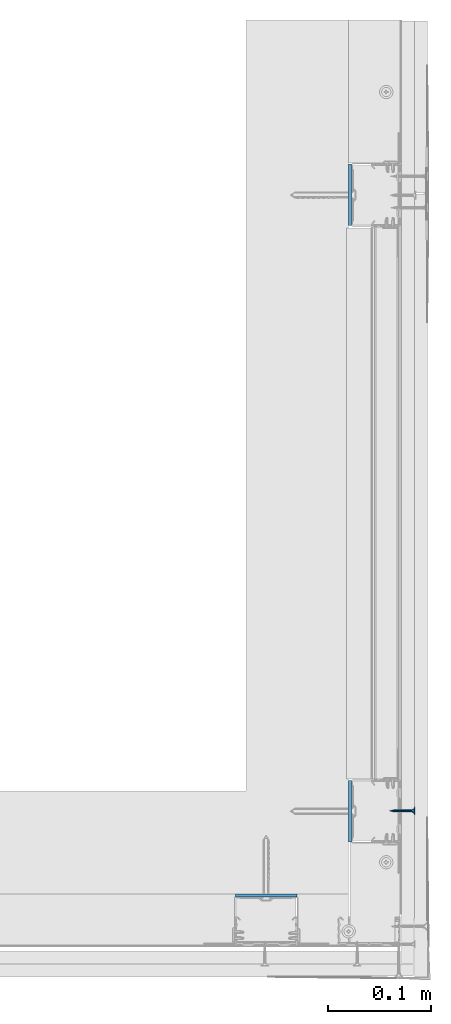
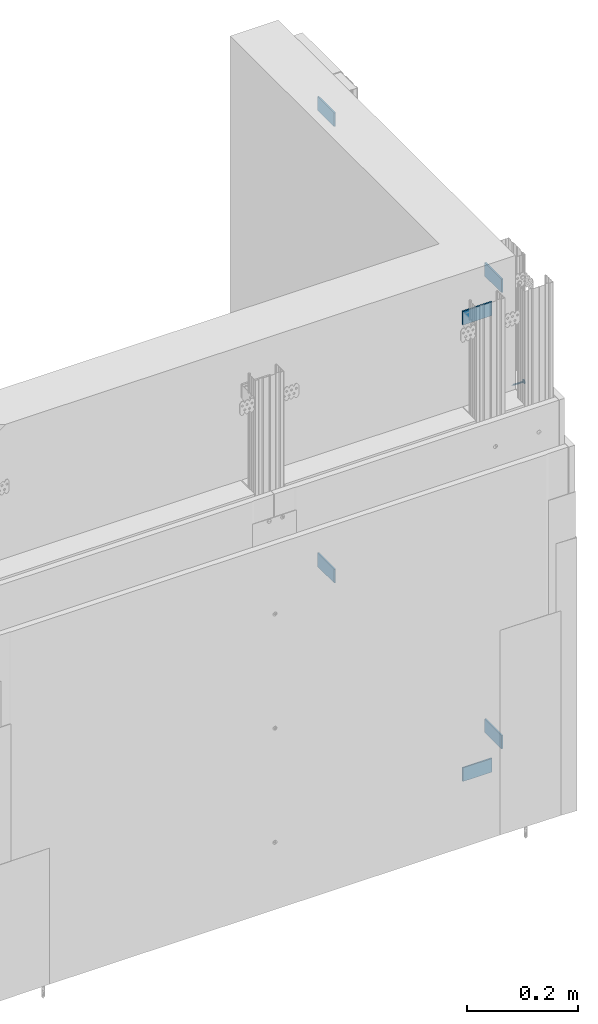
# One storey, part 35 of 56: 7 walls.
"""IFC2X3 building model written with IfcOpenShell, lengths in millimetres."""

from ifc_helpers import new_model, entity, si_unit, converted_unit, direction, frame, origin, origin_with_axes, place, context, project, spatial, faceted_brep, element, save


model = new_model("IFC2X3")

# Units and contexts
model_context = context("Model", 3, precision=1e-05, world=origin(), true_north=direction((0.0, 1.0, 0.0)))
ifc_project = project(units=[si_unit("LENGTHUNIT", "METRE", prefix="MILLI"), si_unit("AREAUNIT", "SQUARE_METRE"), si_unit("VOLUMEUNIT", "CUBIC_METRE"), converted_unit("PLANEANGLEUNIT", "DEGREE", entity("IfcPlaneAngleMeasure", 0.01745), si_unit("PLANEANGLEUNIT", "RADIAN"), dimensions=[0, 0, 0, 0, 0, 0, 0]), si_unit("SOLIDANGLEUNIT", "STERADIAN"), si_unit("MASSUNIT", "GRAM"), si_unit("TIMEUNIT", "SECOND"), si_unit("THERMODYNAMICTEMPERATUREUNIT", "DEGREE_CELSIUS"), si_unit("LUMINOUSINTENSITYUNIT", "LUMEN")], contexts=[model_context])

# Site, building, storey
site_placement = place(None, origin_with_axes())
site = spatial("IfcSite", under=ifc_project, at=site_placement, Name="Default Site", CompositionType="ELEMENT")
building_placement = place(site_placement, origin_with_axes())
building = spatial("IfcBuilding", under=site, at=building_placement, Name="Default Building", CompositionType="ELEMENT")
storey_placement = place(building_placement, origin_with_axes())
storey = spatial("IfcBuildingStorey", under=building, at=storey_placement, Name="Default Building Storey", CompositionType="ELEMENT", Elevation=0.0)

# Walls
for number, where, z_axis, x_axis, name in (
    (1, (3632.793559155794, 2019.140922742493, 120.0952765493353), (0.0, 0.0, 1.0), (1.0, 0.0, 0.0), "Taśma uszczelniająca piankowa RIGIPS szer.30mm"),
    (2, (3632.793559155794, 2019.140922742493, 1120.095276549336), (0.0, 0.0, 1.0), (1.0, 0.0, 0.0), "Taśma uszczelniająca piankowa RIGIPS szer.30mm"),
):
    element("IfcWall", number, at=place(storey_placement, frame(where, z_axis=z_axis, x_axis=x_axis)), inside=storey, Name=name, context=model_context, shape_type="Brep", body=[
        faceted_brep([(59.99999999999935, 0.0, 4.511946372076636e-12), (0.0, 0.0, 0.0), (1.082867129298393e-12, -2.237925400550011e-11, -30.00000000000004), (60.00000000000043, -2.237925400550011e-11, -29.99999999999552), (0.0, 3.00000000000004, 0.0), (1.082867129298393e-12, 2.999999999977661, -30.00000000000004), (60.00000000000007, 3.00000000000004, 0.0), (60.00000000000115, 2.999999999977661, -30.00000000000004)], [[[0, 1, 2, 3]], [[1, 4, 5, 2]], [[4, 6, 7, 5]], [[6, 0, 3, 7]], [[7, 3, 2, 5]], [[0, 6, 4, 1]]]),
    ])
for number, where, z_axis, x_axis, name in (
    (3, (3743.040618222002, 2132.676036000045, 120.0952765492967), (7.662573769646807e-13, 6.138661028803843e-13, 1.0), (-7.494005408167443e-16, -1.0, 6.138661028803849e-13), "Taśma uszczelniająca piankowa RIGIPS szer.30mm"),
    (4, (3743.04061822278, 2132.67603600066, 1120.095276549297), (7.662573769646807e-13, 6.138661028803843e-13, 1.0), (-7.494005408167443e-16, -1.0, 6.138661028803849e-13), "Taśma uszczelniająca piankowa RIGIPS szer.30mm"),
    (5, (3743.04061822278, 2732.676036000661, 1120.095276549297), (7.662573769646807e-13, 6.138661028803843e-13, 1.0), (-7.494005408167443e-16, -1.0, 6.138661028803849e-13), "Taśma uszczelniająca piankowa RIGIPS szer.30mm"),
    (6, (3743.040618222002, 2732.676036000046, 120.0952765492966), (7.662573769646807e-13, 6.138661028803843e-13, 1.0), (-7.494005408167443e-16, -1.0, 6.138661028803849e-13), "Taśma uszczelniająca piankowa RIGIPS szer.30mm"),
):
    element("IfcWall", number, at=place(storey_placement, frame(where, z_axis=z_axis, x_axis=x_axis)), inside=storey, Name=name, context=model_context, shape_type="Brep", body=[
        faceted_brep([(59.99999999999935, -7.820046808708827e-31, 4.511946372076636e-12), (0.0, 0.0, 0.0), (1.082867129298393e-12, -2.237925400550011e-11, -30.00000000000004), (60.00000000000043, -2.237925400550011e-11, -29.99999999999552), (-3.910023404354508e-32, 3.00000000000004, 0.0), (1.082867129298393e-12, 2.999999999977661, -30.00000000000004), (60.00000000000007, 3.00000000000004, 0.0), (60.00000000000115, 2.999999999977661, -30.00000000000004)], [[[0, 1, 2, 3]], [[1, 4, 5, 2]], [[4, 6, 7, 5]], [[6, 0, 3, 7]], [[7, 3, 2, 5]], [[0, 6, 4, 1]]]),
    ])
wall_placement = place(storey_placement, frame((416.5242264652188, 1965.411734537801, 299.315067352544), z_axis=(0.0, 0.0, 1.0), x_axis=(-6.814687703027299e-16, -1.0, 0.0)))
element("IfcWall", 7, at=wall_placement, inside=storey, Name="Wkręt RIGIPS TN 25", context=model_context, shape_type="Brep", body=[
    faceted_brep([(-141.5377463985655, 3390.556721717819, 555.8000000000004), (-141.5377463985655, 3391.020944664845, 555.8000000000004), (-141.4875329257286, 3391.020944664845, 555.1619773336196), (-141.4875329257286, 3390.556721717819, 555.1619773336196), (-141.338128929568, 3391.020944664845, 554.5396649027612), (-141.338128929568, 3390.556721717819, 554.5396649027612), (-141.0932132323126, 3391.020944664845, 553.9483861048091), (-141.0932132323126, 3390.556721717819, 553.9483861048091), (-140.7588164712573, 3391.020944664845, 553.4027001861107), (-140.7588164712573, 3390.556721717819, 553.4027001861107), (-140.3431726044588, 3391.020944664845, 552.9160437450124), (-140.4541727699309, 3390.556721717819, 553.0314907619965), (-140.1080097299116, 3390.556721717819, 552.6986614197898), (-139.8565161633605, 3391.020944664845, 552.5003998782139), (-139.7251262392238, 3390.556721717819, 552.4088262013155), (-139.3108302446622, 3391.020944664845, 552.1660031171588), (-139.3108302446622, 3390.556721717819, 552.1660031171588), (-138.8708651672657, 3390.556721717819, 551.9735584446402), (-138.7195514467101, 3391.020944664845, 551.9210874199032), (-138.4113302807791, 3390.556721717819, 551.8341600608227), (-137.9385961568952, 3390.556721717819, 551.7497404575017), (-138.0972390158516, 3391.020944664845, 551.7716834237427), (-137.459216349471, 3391.020944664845, 551.7214699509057), (-137.459216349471, 3390.556721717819, 551.7214699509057), (-136.8211936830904, 3391.020944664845, 551.7716834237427), (-136.8211936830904, 3390.556721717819, 551.7716834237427), (-136.198881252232, 3391.020944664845, 551.9210874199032), (-136.198881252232, 3390.556721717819, 551.9210874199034), (-135.6076024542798, 3391.020944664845, 552.1660031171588), (-135.6076024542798, 3390.556721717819, 552.1660031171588), (-135.0619165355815, 3391.020944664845, 552.5003998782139), (-135.0619165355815, 3390.556721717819, 552.5003998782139), (-134.5752600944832, 3391.020944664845, 552.9160437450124), (-134.5752600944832, 3390.556721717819, 552.9160437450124), (-134.1596162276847, 3391.020944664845, 553.4027001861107), (-134.1596162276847, 3390.556721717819, 553.4027001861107), (-133.8252194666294, 3391.020944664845, 553.9483861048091), (-133.8252194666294, 3390.556721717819, 553.9483861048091), (-133.580303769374, 3391.020944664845, 554.5396649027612), (-133.580303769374, 3390.556721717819, 554.5396649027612), (-133.4308997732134, 3391.020944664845, 556.4380226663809), (-133.4308997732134, 3390.556721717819, 556.4380226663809), (-133.3806863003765, 3390.556721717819, 555.8000000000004), (-133.3806863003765, 3391.020944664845, 555.8000000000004), (-133.4308997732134, 3390.556721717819, 555.1619773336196), (-133.4308997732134, 3391.020944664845, 555.1619773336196), (-133.580303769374, 3391.020944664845, 557.0603350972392), (-133.580303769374, 3390.556721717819, 557.0603350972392), (-133.8252194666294, 3391.020944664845, 557.6516138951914), (-133.8252194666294, 3390.556721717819, 557.6516138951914), (-134.1596162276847, 3391.020944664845, 558.1972998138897), (-134.1596162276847, 3390.556721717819, 558.1972998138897), (-134.5752600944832, 3391.020944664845, 558.683956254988), (-134.5752600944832, 3390.556721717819, 558.683956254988), (-135.0619165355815, 3391.020944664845, 559.0996001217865), (-135.0619165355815, 3390.556721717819, 559.0996001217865), (-135.6076024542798, 3391.020944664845, 559.4339968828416), (-135.6076024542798, 3390.556721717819, 559.4339968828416), (-136.198881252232, 3391.020944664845, 559.6789125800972), (-136.198881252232, 3390.556721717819, 559.6789125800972), (-136.8211936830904, 3391.020944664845, 559.8283165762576), (-136.8211936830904, 3390.556721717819, 559.8283165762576), (-137.459216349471, 3391.020944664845, 559.8785300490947), (-137.459216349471, 3390.556721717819, 559.8785300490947), (-138.0972390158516, 3391.020944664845, 559.8283165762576), (-138.0972390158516, 3390.556721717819, 559.8283165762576), (-138.7195514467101, 3391.020944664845, 559.6789125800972), (-138.7195514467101, 3390.556721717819, 559.6789125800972), (-139.3108302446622, 3391.020944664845, 559.4339968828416), (-139.3108302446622, 3390.556721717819, 559.4339968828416), (-139.8565161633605, 3391.020944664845, 559.0996001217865), (-139.8565161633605, 3390.556721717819, 559.0996001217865), (-140.3431726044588, 3391.020944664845, 558.683956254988), (-140.3431726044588, 3390.556721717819, 558.683956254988), (-140.7588164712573, 3391.020944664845, 558.1972998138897), (-140.7588164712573, 3390.556721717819, 558.1972998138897), (-141.0932132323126, 3391.020944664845, 557.6516138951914), (-141.0932132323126, 3390.556721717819, 557.6516138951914), (-141.338128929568, 3391.020944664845, 557.0603350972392), (-141.338128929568, 3390.556721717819, 557.0603350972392), (-141.4875329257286, 3391.020944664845, 556.4380226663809), (-141.4875329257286, 3390.556721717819, 556.4380226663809), (-137.8060615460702, 3388.229732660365, 554.5055560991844), (-137.459216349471, 3387.475459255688, 554.5693795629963), (-137.6517277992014, 3387.475459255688, 554.5845305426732), (-137.459216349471, 3388.229732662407, 554.4598930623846), (-137.8394989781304, 3387.475459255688, 554.6296104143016), (-138.1292698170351, 3388.229732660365, 554.639433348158), (-138.0179063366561, 3387.475459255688, 554.7035091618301), (-138.1825568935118, 3387.475459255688, 554.804407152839), (-138.4068150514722, 3388.229732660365, 554.8524012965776), (-138.3293964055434, 3387.475459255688, 554.929819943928), (-138.6197830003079, 3388.229732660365, 555.1299465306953), (-138.4548091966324, 3387.475459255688, 555.0766594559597), (-138.5557071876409, 3387.475459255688, 555.2413100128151), (-138.7536602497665, 3388.229732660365, 555.4531548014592), (-138.6296059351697, 3387.475459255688, 555.4197173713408), (-138.6746858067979, 3387.475459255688, 555.6074885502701), (-138.7993232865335, 3388.229732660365, 555.7999999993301), (-138.6898367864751, 3387.475459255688, 555.8000000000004), (-138.7536602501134, 3388.229732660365, 556.1468451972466), (-138.6746858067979, 3387.475459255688, 555.9925114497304), (-138.6296059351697, 3387.475459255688, 556.1802826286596), (-138.6197830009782, 3388.229732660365, 556.4700534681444), (-138.5557071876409, 3387.475459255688, 556.3586899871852), (-138.4548091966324, 3387.475459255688, 556.5233405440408), (-138.4068150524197, 3388.229732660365, 556.7475987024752), (-138.3293964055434, 3387.475459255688, 556.6701800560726), (-138.1292698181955, 3388.229732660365, 556.9605666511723), (-138.1825568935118, 3387.475459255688, 556.7955928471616), (-138.0179063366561, 3387.475459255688, 556.8964908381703), (-137.8060615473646, 3388.229732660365, 557.0944439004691), (-137.8394989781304, 3387.475459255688, 556.9703895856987), (-137.6517277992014, 3387.475459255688, 557.0154694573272), (-137.459216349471, 3388.229732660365, 557.1401069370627), (-137.459216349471, 3387.475459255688, 557.0306204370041), (-137.1123711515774, 3388.229732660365, 557.0944439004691), (-137.2667048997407, 3387.475459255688, 557.0154694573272), (-137.0789337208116, 3387.475459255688, 556.9703895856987), (-136.7891628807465, 3388.229732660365, 556.9605666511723), (-136.9005263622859, 3387.475459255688, 556.8964908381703), (-136.7358758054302, 3387.475459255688, 556.7955928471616), (-136.5116176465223, 3388.229732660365, 556.7475987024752), (-136.5890362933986, 3387.475459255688, 556.6701800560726), (-136.2986496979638, 3388.229732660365, 556.4700534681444), (-136.4636235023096, 3387.475459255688, 556.5233405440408), (-136.3627255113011, 3387.475459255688, 556.3586899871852), (-136.1647724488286, 3388.229732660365, 556.1468451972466), (-136.2888267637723, 3387.475459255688, 556.1802826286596), (-136.2437468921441, 3387.475459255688, 555.9925114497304), (-136.1191094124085, 3388.229732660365, 555.7999999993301), (-136.2285959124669, 3387.475459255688, 555.8000000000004), (-136.1647724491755, 3388.229732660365, 555.4531548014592), (-136.2437468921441, 3387.475459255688, 555.6074885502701), (-136.2888267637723, 3387.475459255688, 555.4197173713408), (-136.2986496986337, 3388.229732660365, 555.1299465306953), (-136.3627255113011, 3387.475459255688, 555.2413100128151), (-136.4636235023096, 3387.475459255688, 555.0766594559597), (-136.5116176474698, 3388.229732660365, 554.8524012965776), (-136.5890362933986, 3387.475459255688, 554.929819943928), (-136.7891628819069, 3388.229732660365, 554.639433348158), (-136.7358758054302, 3387.475459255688, 554.804407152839), (-136.9005263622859, 3387.475459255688, 554.7035091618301), (-137.1123711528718, 3388.229732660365, 554.5055560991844), (-137.0789337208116, 3387.475459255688, 554.6296104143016), (-137.2667048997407, 3387.475459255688, 554.5845305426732), (-137.459216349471, 3388.936142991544, 554.1737111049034), (-137.8801308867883, 3388.936142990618, 554.2291255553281), (-138.2723607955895, 3388.936142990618, 554.3915925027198), (-138.6091762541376, 3388.936142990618, 554.6500400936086), (-138.8676238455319, 3388.936142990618, 554.9868555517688), (-139.030090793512, 3388.936142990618, 555.3790854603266), (-139.0855052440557, 3388.936142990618, 555.7999999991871), (-139.0300907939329, 3388.936142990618, 556.2209145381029), (-138.8676238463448, 3388.936142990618, 556.6131444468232), (-138.6091762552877, 3388.936142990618, 556.949959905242), (-138.272360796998, 3388.936142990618, 557.2084074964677), (-137.8801308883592, 3388.936142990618, 557.3708744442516), (-137.459216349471, 3388.936142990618, 557.4262888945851), (-137.0383018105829, 3388.936142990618, 557.3708744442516), (-136.646071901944, 3388.936142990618, 557.2084074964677), (-136.3092564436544, 3388.936142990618, 556.949959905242), (-136.0508088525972, 3388.936142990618, 556.6131444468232), (-135.8883419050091, 3388.936142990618, 556.2209145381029), (-135.8329274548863, 3388.936142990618, 555.7999999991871), (-135.88834190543, 3388.936142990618, 555.3790854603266), (-136.0508088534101, 3388.936142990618, 554.9868555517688), (-136.3092564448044, 3388.936142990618, 554.6500400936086), (-136.6460719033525, 3388.936142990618, 554.3915925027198), (-137.0383018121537, 3388.936142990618, 554.2291255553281), (-137.459216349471, 3389.553938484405, 553.727343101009), (-137.995659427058, 3389.553938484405, 553.7979671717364), (-138.4955447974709, 3389.553938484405, 554.005026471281), (-138.9248060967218, 3389.553938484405, 554.334410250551), (-139.2541898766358, 3389.553938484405, 554.7636715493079), (-139.46124917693, 3389.553938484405, 555.2635569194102), (-139.5318732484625, 3389.553938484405, 555.7999999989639), (-139.4612491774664, 3389.553938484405, 556.3364430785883), (-139.2541898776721, 3389.553938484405, 556.8363284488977), (-138.9248060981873, 3389.553938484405, 557.2655897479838), (-138.495544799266, 3389.553938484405, 557.5949735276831), (-137.9956594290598, 3389.553938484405, 557.8020328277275), (-137.459216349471, 3389.553938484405, 557.8726568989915), (-136.9227732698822, 3389.553938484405, 557.8020328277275), (-136.422887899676, 3389.553938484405, 557.5949735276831), (-135.9936266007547, 3389.553938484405, 557.2655897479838), (-135.6642428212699, 3389.553938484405, 556.8363284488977), (-135.4571835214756, 3389.553938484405, 556.3364430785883), (-135.3865594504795, 3389.553938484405, 555.7999999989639), (-135.457183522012, 3389.553938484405, 555.2635569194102), (-135.6642428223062, 3389.553938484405, 554.7636715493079), (-135.9936266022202, 3389.553938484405, 554.334410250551), (-136.4228879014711, 3389.553938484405, 554.005026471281), (-136.922773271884, 3389.553938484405, 553.7979671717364), (-137.459216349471, 3390.047479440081, 553.1465393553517), (-138.1459824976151, 3390.047479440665, 553.2369538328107), (-138.7859466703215, 3390.047479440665, 553.5020356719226), (-139.3354963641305, 3390.047479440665, 553.9237199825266), (-139.7571806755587, 3390.047479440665, 554.4732696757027), (-140.0222625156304, 3390.047479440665, 555.1132338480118), (-140.1126769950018, 3390.047479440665, 555.7999999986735), (-140.0222625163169, 3390.047479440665, 556.4867661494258), (-139.7571806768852, 3390.047479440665, 557.1267303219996), (-139.3354963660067, 3390.047479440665, 557.6762800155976), (-138.7859466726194, 3390.047479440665, 558.0979643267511), (-138.1459825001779, 3390.047479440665, 558.3630461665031), (-137.459216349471, 3390.047479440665, 558.4534606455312), (-136.7724501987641, 3390.047479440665, 558.3630461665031), (-136.1324860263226, 3390.047479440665, 558.0979643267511), (-135.5829363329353, 3390.047479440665, 557.6762800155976), (-135.1612520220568, 3390.047479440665, 557.1267303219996), (-134.8961701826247, 3390.047479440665, 556.4867661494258), (-134.8057557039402, 3390.047479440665, 555.7999999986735), (-134.8961701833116, 3390.047479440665, 555.1132338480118), (-135.1612520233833, 3390.047479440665, 554.4732696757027), (-135.5829363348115, 3390.047479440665, 553.9237199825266), (-136.1324860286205, 3390.047479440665, 553.5020356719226), (-136.7724502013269, 3390.047479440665, 553.2369538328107), (-137.459216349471, 3390.388294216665, 552.4648055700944), (-138.3224281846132, 3390.388294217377, 552.5784495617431), (-139.1268135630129, 3390.388294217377, 552.9116368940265), (-139.8175549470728, 3390.388294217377, 553.4416613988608), (-140.3475794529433, 3390.388294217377, 554.1324027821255), (-140.6807667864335, 3390.388294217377, 554.9367881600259), (-140.7944107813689, 3390.388294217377, 555.7999999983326), (-140.6807667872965, 3390.388294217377, 556.6632118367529), (-140.3475794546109, 3390.388294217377, 557.4675972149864), (-139.8175549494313, 3390.388294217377, 558.1583385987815), (-139.1268135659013, 3390.388294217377, 558.6883631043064), (-138.3224281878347, 3390.388294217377, 559.0215504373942), (-137.459216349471, 3390.388294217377, 559.1351944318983), (-136.5960045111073, 3390.388294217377, 559.0215504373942), (-135.7916191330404, 3390.388294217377, 558.6883631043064), (-135.1008777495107, 3390.388294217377, 558.1583385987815), (-134.5708532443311, 3390.388294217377, 557.4675972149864), (-134.2376659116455, 3390.388294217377, 556.6632118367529), (-134.1240219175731, 3390.388294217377, 555.7999999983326), (-134.2376659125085, 3390.388294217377, 554.9367881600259), (-134.5708532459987, 3390.388294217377, 554.1324027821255), (-135.1008777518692, 3390.388294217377, 553.4416613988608), (-135.7916191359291, 3390.388294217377, 552.9116368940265), (-136.5960045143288, 3390.388294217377, 552.5784495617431), (-138.6898367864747, 3370.55807436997, 555.8000000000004), (-138.6746858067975, 3370.55807436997, 555.6074885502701), (-138.6296059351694, 3370.55807436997, 555.4197173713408), (-138.5557071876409, 3370.55807436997, 555.2413100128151), (-138.4548091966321, 3370.55807436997, 555.0766594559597), (-138.329396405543, 3370.55807436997, 554.929819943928), (-138.1825568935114, 3370.55807436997, 554.804407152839), (-138.0179063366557, 3370.55807436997, 554.7035091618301), (-137.83949897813, 3370.55807436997, 554.6296104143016), (-137.651727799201, 3370.55807436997, 554.5845305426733), (-137.4592163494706, 3370.55807436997, 554.5693795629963), (-137.2667048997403, 3370.55807436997, 554.5845305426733), (-137.0789337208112, 3370.55807436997, 554.6296104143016), (-136.9005263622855, 3370.55807436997, 554.7035091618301), (-136.7358758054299, 3370.55807436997, 554.804407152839), (-136.5890362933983, 3370.55807436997, 554.929819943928), (-136.4636235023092, 3370.55807436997, 555.0766594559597), (-136.3627255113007, 3370.55807436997, 555.2413100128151), (-136.2888267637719, 3370.55807436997, 555.4197173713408), (-136.2437468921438, 3370.55807436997, 555.9925114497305), (-136.2285959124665, 3370.55807436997, 555.8000000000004), (-136.2437468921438, 3370.55807436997, 555.6074885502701), (-136.2888267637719, 3370.55807436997, 556.1802826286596), (-136.3627255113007, 3370.55807436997, 556.3586899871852), (-136.4636235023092, 3370.55807436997, 556.5233405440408), (-136.5890362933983, 3370.55807436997, 556.6701800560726), (-136.7358758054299, 3370.55807436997, 556.7955928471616), (-136.9005263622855, 3370.55807436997, 556.8964908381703), (-137.0789337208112, 3370.55807436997, 556.9703895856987), (-137.2667048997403, 3370.55807436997, 557.0154694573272), (-137.4592163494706, 3370.55807436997, 557.0306204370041), (-137.651727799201, 3370.55807436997, 557.0154694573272), (-137.83949897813, 3370.55807436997, 556.9703895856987), (-138.0179063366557, 3370.55807436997, 556.8964908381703), (-138.1825568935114, 3370.55807436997, 556.7955928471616), (-138.329396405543, 3370.55807436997, 556.6701800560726), (-138.4548091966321, 3370.55807436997, 556.5233405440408), (-138.5557071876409, 3370.55807436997, 556.3586899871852), (-138.6296059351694, 3370.55807436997, 556.1802826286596), (-138.6746858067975, 3370.55807436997, 555.9925114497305), (-137.4592163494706, 3366.021033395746, 555.8000000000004), (-139.9592163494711, 3391.020944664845, 556.3000000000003), (-137.9592163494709, 3391.020944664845, 556.3000000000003), (-139.9592163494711, 3391.020944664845, 555.3000000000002), (-137.9592163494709, 3391.020944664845, 555.3000000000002), (-137.9592163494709, 3391.020944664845, 553.3000000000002), (-136.9592163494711, 3391.020944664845, 553.3000000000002), (-136.9592163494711, 3391.020944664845, 555.3000000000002), (-134.9592163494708, 3391.020944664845, 555.3000000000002), (-134.9592163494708, 3391.020944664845, 556.3000000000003), (-136.9592163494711, 3391.020944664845, 556.3000000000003), (-136.9592163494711, 3391.020944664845, 558.3000000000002), (-137.9592163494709, 3391.020944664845, 558.3000000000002), (-136.9592163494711, 3390.128974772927, 556.3000000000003), (-134.9592163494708, 3390.128974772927, 556.3000000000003), (-134.9592163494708, 3390.128974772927, 555.3000000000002), (-136.9592163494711, 3390.128974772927, 555.3000000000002), (-136.9592163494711, 3390.128974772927, 553.3000000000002), (-137.9592163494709, 3390.128974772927, 553.3000000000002), (-137.9592163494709, 3390.128974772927, 555.3000000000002), (-139.9592163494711, 3390.128974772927, 555.3000000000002), (-139.9592163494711, 3390.128974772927, 556.3000000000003), (-137.9592163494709, 3390.128974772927, 556.3000000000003), (-137.9592163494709, 3390.128974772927, 558.3000000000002), (-136.9592163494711, 3390.128974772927, 558.3000000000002)], [[[0, 1, 2, 3]], [[4, 5, 3, 2]], [[6, 7, 5, 4]], [[7, 6, 8, 9]], [[8, 10, 9]], [[10, 11, 9]], [[12, 11, 13]], [[11, 10, 13]], [[13, 14, 12]], [[13, 15, 14]], [[15, 16, 14]], [[17, 16, 18]], [[16, 15, 18]], [[18, 19, 17]], [[20, 19, 21]], [[19, 18, 21]], [[21, 22, 20]], [[22, 23, 20]], [[23, 22, 24, 25]], [[26, 27, 25, 24]], [[28, 29, 27, 26]], [[29, 28, 30, 31]], [[32, 33, 31, 30]], [[33, 32, 34, 35]], [[36, 37, 35, 34]], [[38, 39, 37, 36]], [[40, 41, 42, 43]], [[43, 42, 44, 45]], [[39, 38, 45, 44]], [[46, 47, 41, 40]], [[48, 49, 47, 46]], [[49, 48, 50, 51]], [[52, 53, 51, 50]], [[53, 52, 54, 55]], [[56, 57, 55, 54]], [[58, 59, 57, 56]], [[59, 58, 60, 61]], [[62, 63, 61, 60]], [[63, 62, 64, 65]], [[66, 67, 65, 64]], [[68, 69, 67, 66]], [[69, 68, 70, 71]], [[72, 73, 71, 70]], [[73, 72, 74, 75]], [[76, 77, 75, 74]], [[78, 79, 77, 76]], [[79, 78, 80, 81]], [[1, 0, 81, 80]], [[82, 83, 84]], [[82, 85, 83]], [[84, 86, 82]], [[82, 86, 87]], [[88, 87, 86]], [[87, 88, 89]], [[89, 90, 87]], [[89, 91, 90]], [[92, 91, 93]], [[92, 90, 91]], [[93, 94, 92]], [[92, 94, 95]], [[96, 95, 94]], [[95, 96, 97]], [[97, 98, 95]], [[97, 99, 98]], [[100, 99, 101]], [[100, 98, 99]], [[101, 102, 100]], [[100, 102, 103]], [[104, 103, 102]], [[103, 104, 105]], [[105, 106, 103]], [[105, 107, 106]], [[108, 107, 109]], [[108, 106, 107]], [[109, 110, 108]], [[108, 110, 111]], [[112, 111, 110]], [[111, 112, 113]], [[113, 114, 111]], [[113, 115, 114]], [[116, 115, 117]], [[116, 114, 115]], [[117, 118, 116]], [[116, 118, 119]], [[120, 119, 118]], [[119, 120, 121]], [[121, 122, 119]], [[121, 123, 122]], [[124, 123, 125]], [[124, 122, 123]], [[125, 126, 124]], [[124, 126, 127]], [[128, 127, 126]], [[127, 128, 129]], [[129, 130, 127]], [[129, 131, 130]], [[132, 131, 133]], [[132, 130, 131]], [[133, 134, 132]], [[132, 134, 135]], [[136, 135, 134]], [[135, 136, 137]], [[137, 138, 135]], [[137, 139, 138]], [[140, 139, 141]], [[140, 138, 139]], [[141, 142, 140]], [[140, 142, 143]], [[144, 143, 142]], [[143, 144, 145]], [[145, 85, 143]], [[145, 83, 85]], [[146, 85, 147]], [[82, 147, 85]], [[87, 148, 147, 82]], [[90, 149, 148, 87]], [[92, 150, 149, 90]], [[95, 151, 150, 92]], [[98, 152, 151, 95]], [[100, 153, 152, 98]], [[103, 154, 153, 100]], [[106, 155, 154, 103]], [[108, 156, 155, 106]], [[111, 157, 156, 108]], [[114, 158, 157, 111]], [[116, 159, 158, 114]], [[119, 160, 159, 116]], [[122, 161, 160, 119]], [[124, 162, 161, 122]], [[127, 163, 162, 124]], [[130, 164, 163, 127]], [[132, 165, 164, 130]], [[135, 166, 165, 132]], [[138, 167, 166, 135]], [[140, 168, 167, 138]], [[143, 169, 168, 140]], [[143, 85, 169]], [[146, 169, 85]], [[170, 146, 171]], [[147, 171, 146]], [[148, 172, 171, 147]], [[149, 173, 172, 148]], [[150, 174, 173, 149]], [[151, 175, 174, 150]], [[152, 176, 175, 151]], [[153, 177, 176, 152]], [[154, 178, 177, 153]], [[155, 179, 178, 154]], [[156, 180, 179, 155]], [[157, 181, 180, 156]], [[158, 182, 181, 157]], [[159, 183, 182, 158]], [[160, 184, 183, 159]], [[161, 185, 184, 160]], [[162, 186, 185, 161]], [[163, 187, 186, 162]], [[164, 188, 187, 163]], [[165, 189, 188, 164]], [[166, 190, 189, 165]], [[167, 191, 190, 166]], [[168, 192, 191, 167]], [[169, 193, 192, 168]], [[169, 146, 193]], [[170, 193, 146]], [[194, 170, 195]], [[171, 195, 170]], [[172, 196, 195, 171]], [[173, 197, 196, 172]], [[174, 198, 197, 173]], [[175, 199, 198, 174]], [[176, 200, 199, 175]], [[177, 201, 200, 176]], [[178, 202, 201, 177]], [[179, 203, 202, 178]], [[180, 204, 203, 179]], [[181, 205, 204, 180]], [[182, 206, 205, 181]], [[183, 207, 206, 182]], [[184, 208, 207, 183]], [[185, 209, 208, 184]], [[186, 210, 209, 185]], [[187, 211, 210, 186]], [[188, 212, 211, 187]], [[189, 213, 212, 188]], [[190, 214, 213, 189]], [[191, 215, 214, 190]], [[192, 216, 215, 191]], [[193, 217, 216, 192]], [[193, 170, 217]], [[194, 217, 170]], [[218, 19, 20]], [[218, 219, 19]], [[20, 23, 218]], [[218, 194, 219]], [[195, 219, 194]], [[219, 16, 17]], [[219, 220, 16]], [[17, 19, 219]], [[196, 220, 219, 195]], [[221, 11, 12]], [[220, 12, 14]], [[220, 221, 12]], [[14, 16, 220]], [[197, 221, 220, 196]], [[222, 7, 9]], [[9, 221, 222]], [[9, 11, 221]], [[198, 222, 221, 197]], [[5, 7, 223]], [[222, 223, 7]], [[199, 223, 222, 198]], [[223, 0, 3]], [[223, 224, 0]], [[3, 5, 223]], [[200, 224, 223, 199]], [[225, 79, 81]], [[81, 224, 225]], [[81, 0, 224]], [[201, 225, 224, 200]], [[225, 226, 77, 79]], [[202, 226, 225, 201]], [[226, 73, 75]], [[226, 227, 73]], [[75, 77, 226]], [[203, 227, 226, 202]], [[228, 69, 71]], [[71, 227, 228]], [[71, 73, 227]], [[204, 228, 227, 203]], [[228, 229, 67, 69]], [[205, 229, 228, 204]], [[229, 63, 65]], [[229, 230, 63]], [[65, 67, 229]], [[206, 230, 229, 205]], [[231, 59, 61]], [[61, 230, 231]], [[61, 63, 230]], [[207, 231, 230, 206]], [[231, 232, 57, 59]], [[208, 232, 231, 207]], [[232, 53, 55]], [[232, 233, 53]], [[55, 57, 232]], [[209, 233, 232, 208]], [[234, 49, 51]], [[51, 233, 234]], [[51, 53, 233]], [[210, 234, 233, 209]], [[234, 235, 47, 49]], [[211, 235, 234, 210]], [[235, 42, 41]], [[235, 236, 42]], [[41, 47, 235]], [[212, 236, 235, 211]], [[237, 39, 44]], [[44, 236, 237]], [[44, 42, 236]], [[213, 237, 236, 212]], [[37, 39, 238]], [[237, 238, 39]], [[214, 238, 237, 213]], [[238, 33, 35]], [[238, 239, 33]], [[35, 37, 238]], [[215, 239, 238, 214]], [[240, 29, 31]], [[31, 239, 240]], [[31, 33, 239]], [[216, 240, 239, 215]], [[27, 29, 241]], [[240, 241, 29]], [[217, 241, 240, 216]], [[217, 194, 241]], [[218, 241, 194]], [[241, 23, 25]], [[241, 218, 23]], [[25, 27, 241]], [[242, 99, 97, 243]], [[96, 244, 243, 97]], [[94, 245, 244, 96]], [[245, 94, 93, 246]], [[91, 247, 246, 93]], [[247, 91, 89, 248]], [[88, 249, 248, 89]], [[86, 250, 249, 88]], [[250, 86, 84, 251]], [[83, 252, 251, 84]], [[252, 83, 145, 253]], [[144, 254, 253, 145]], [[142, 255, 254, 144]], [[255, 142, 141, 256]], [[139, 257, 256, 141]], [[257, 139, 137, 258]], [[136, 259, 258, 137]], [[134, 260, 259, 136]], [[129, 261, 262, 131]], [[131, 262, 263, 133]], [[260, 134, 133, 263]], [[128, 264, 261, 129]], [[126, 265, 264, 128]], [[265, 126, 125, 266]], [[123, 267, 266, 125]], [[267, 123, 121, 268]], [[120, 269, 268, 121]], [[118, 270, 269, 120]], [[270, 118, 117, 271]], [[115, 272, 271, 117]], [[272, 115, 113, 273]], [[112, 274, 273, 113]], [[110, 275, 274, 112]], [[275, 110, 109, 276]], [[107, 277, 276, 109]], [[277, 107, 105, 278]], [[104, 279, 278, 105]], [[102, 280, 279, 104]], [[280, 102, 101, 281]], [[99, 242, 281, 101]], [[243, 244, 282]], [[282, 242, 243]], [[244, 245, 282]], [[246, 247, 282]], [[282, 245, 246]], [[248, 249, 282]], [[282, 247, 248]], [[249, 250, 282]], [[251, 252, 282]], [[282, 250, 251]], [[253, 254, 282]], [[282, 252, 253]], [[254, 255, 282]], [[256, 257, 282]], [[282, 255, 256]], [[258, 259, 282]], [[282, 257, 258]], [[259, 260, 282]], [[263, 262, 282]], [[282, 260, 263]], [[261, 264, 282]], [[282, 262, 261]], [[264, 265, 282]], [[266, 267, 282]], [[282, 265, 266]], [[268, 269, 282]], [[282, 267, 268]], [[269, 270, 282]], [[271, 272, 282]], [[282, 270, 271]], [[273, 274, 282]], [[282, 272, 273]], [[274, 275, 282]], [[276, 277, 282]], [[282, 275, 276]], [[278, 279, 282]], [[282, 277, 278]], [[279, 280, 282]], [[281, 242, 282]], [[282, 280, 281]], [[283, 76, 74, 284]], [[283, 285, 286, 287, 288, 289, 290, 291, 292, 293, 294, 284, 74, 72, 70, 68, 66, 64, 62, 60, 58, 56, 54, 52, 50, 48, 46, 40, 43, 45, 38, 36, 34, 32, 30, 28, 26, 24, 22, 21, 18, 15, 13, 10, 8, 6, 4, 2, 1, 80, 78, 76]], [[295, 296, 297, 298, 299, 300, 301, 302, 303, 304, 305, 306]], [[297, 290, 289, 298]], [[296, 291, 290, 297]], [[295, 292, 291, 296]], [[306, 293, 292, 295]], [[305, 294, 293, 306]], [[304, 284, 294, 305]], [[303, 283, 284, 304]], [[302, 285, 283, 303]], [[301, 286, 285, 302]], [[300, 287, 286, 301]], [[299, 288, 287, 300]], [[298, 289, 288, 299]]]),
])

save(model, "model.ifc")
